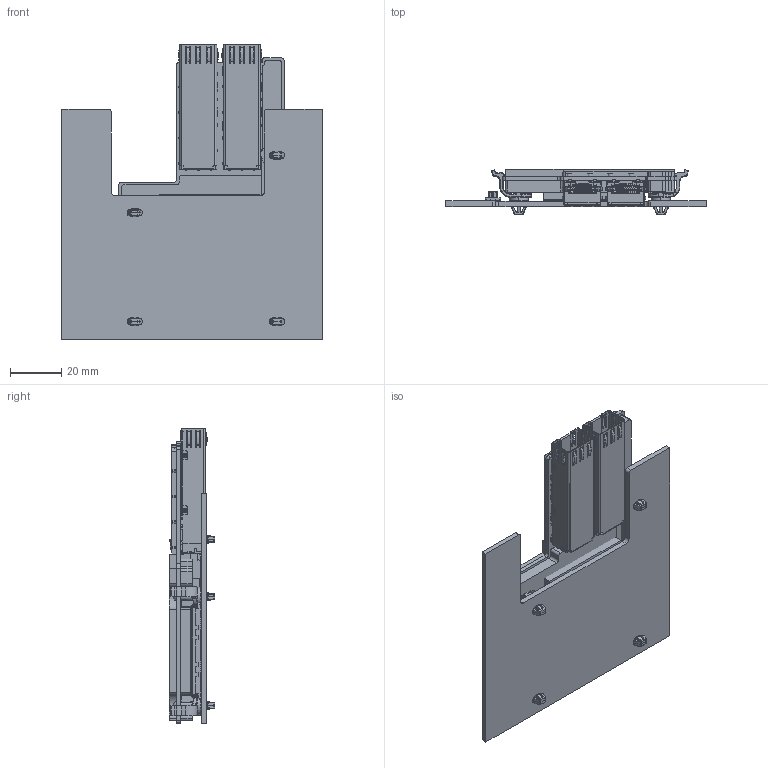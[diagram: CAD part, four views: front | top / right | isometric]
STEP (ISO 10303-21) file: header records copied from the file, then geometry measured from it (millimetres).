
FILE_DESCRIPTION((''),'2;1');
FILE_NAME('OCP-MZ-2_0-BD-ASSY_1X4SFP_8MM_ASM','2015-10-23T',('95030616'),(''),'PRO/ENGINEER BY PARAMETRIC TECHNOLOGY CORPORATION, 2013040','PRO/ENGINEER BY PARAMETRIC TECHNOLOGY CORPORATION, 2013040','');
FILE_SCHEMA(('AUTOMOTIVE_DESIGN { 1 0 10303 214 1 1 1 1 }'));
Products named in the file (20): OCP-2_0-BOARD_2; FCI-P61083-124X2XXX_2; F01-LED-EVERLIGHT; BTM-KEEPOUT-2MM; BTM-KEEPOUT-2_9MM; TOP-KEEPOUT-4_5MM; TOP-KEEPOUT-4_5MM-3; TOP-KEEPOUT-4MM; TOP-KEEPOUT-4MM-2; TOP-KEEPOUT-7_5MM; PORTION_MB_LEOPARD_E1_FILLED; FCI_61082_081402LF_LEOPARD_E1; CN120_GPN2_0-8_SMD_H_F-E1; 64POS-REC1; ASSY_PORTION_MB_LEOPARD_E1_ASM__ASM; F06-MEZZ-LATCH-RIGHT-8MM; 1X1STANDASM_ASM; SFP28-20150313; F06-MEZZ-LATCH-LEFT-8MM; OCP-MZ-2_0-BD-ASSY_1X4SFP_8MM_ASM
Assembly tree (26 placements, depth 3):
  OCP-MZ-2_0-BD-ASSY_1X4SFP_8MM_ASM
    OCP-2_0-BOARD_2
    FCI-P61083-124X2XXX_2
    F01-LED-EVERLIGHT  x4
    BTM-KEEPOUT-2MM
    BTM-KEEPOUT-2_9MM
    TOP-KEEPOUT-4_5MM
    TOP-KEEPOUT-4_5MM-3
    TOP-KEEPOUT-4MM
    TOP-KEEPOUT-4MM-2
    TOP-KEEPOUT-7_5MM
    ASSY_PORTION_MB_LEOPARD_E1_ASM__ASM
      PORTION_MB_LEOPARD_E1_FILLED
      FCI_61082_081402LF_LEOPARD_E1
      CN120_GPN2_0-8_SMD_H_F-E1
      64POS-REC1
    F06-MEZZ-LATCH-RIGHT-8MM  x3
    1X1STANDASM_ASM  x2
    SFP28-20150313  x2
    F06-MEZZ-LATCH-LEFT-8MM
Bounding box: 101.72 x 17.77 x 115.25 mm (x, y, z)
Volume: 79559.2 mm3; surface area: 76466.5 mm2
Topology: 25 solids, 51 shells, 11318 faces, 31934 edges, 20465 vertices
Faces by surface type: plane 8447, cylinder 2153, bspline 443, sphere 123, cone 120, torus 32
Entity records: 305576 total; most frequent: CARTESIAN_POINT 58755, ORIENTED_EDGE 45306, DIRECTION 39811, EDGE_CURVE 22653, VECTOR 19549, LINE 19549, VERTEX_POINT 14517, PRESENTATION_STYLE_ASSIGNMENT 11794
